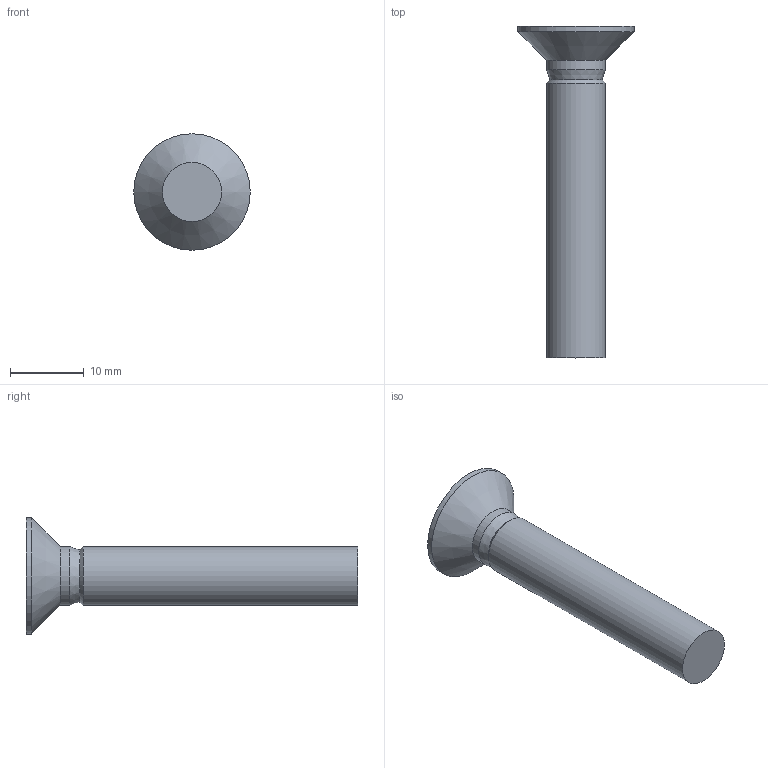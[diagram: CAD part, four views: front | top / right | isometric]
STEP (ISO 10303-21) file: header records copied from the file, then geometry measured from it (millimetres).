
FILE_DESCRIPTION(/* description */ (''),/* implementation_level */ '2;1');
FILE_NAME(/* name */ 'C:\Users\unitec\Documents\Inventor\HP\ボルト\JIS B 1111 十字穴付き皿小ねじ\IPT\CHWCSS-M8\CHWCSS-M8-45.stp',/* time_stamp */ '2016-12-24T16:30:22+09:00',/* author */ ('unitec'),/* organization */ (''),/* preprocessor_version */ 'ST-DEVELOPER v15.2',/* originating_system */ 'Autodesk Inventor 2014',/* authorisation */ '');
FILE_SCHEMA (('AUTOMOTIVE_DESIGN { 1 0 10303 214 3 1 1 }'));
Length unit declared in the file: millimetre
Products named in the file (1): CHWCSS-M8-45
Bounding box: 15.8 x 45 x 15.8 mm (x, y, z)
Volume: 2554.6 mm3; surface area: 1559.6 mm2
Topology: 1 solids, 1 shells, 33 faces, 77 edges, 43 vertices
Faces by surface type: plane 23, bspline 4, cylinder 3, cone 3
Full cylindrical faces by diameter (mm): 8 x2, 15.8 x1
Entity records: 1057 total; most frequent: CARTESIAN_POINT 400, ORIENTED_EDGE 134, DIRECTION 106, EDGE_CURVE 67, VERTEX_POINT 43, EDGE_LOOP 40, AXIS2_PLACEMENT_3D 37, ADVANCED_FACE 33
